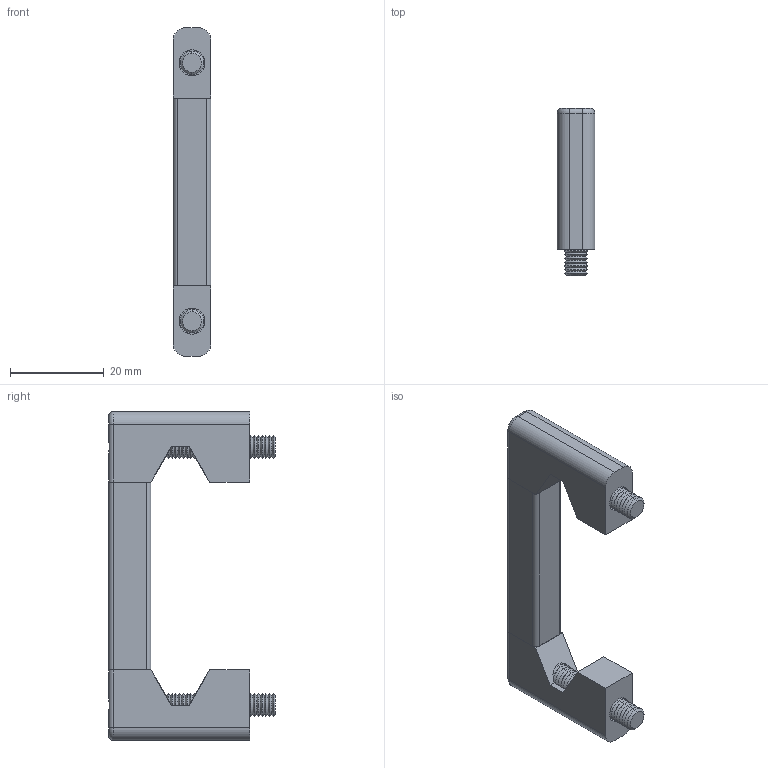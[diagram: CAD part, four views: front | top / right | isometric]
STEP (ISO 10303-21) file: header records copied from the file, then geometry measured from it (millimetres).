
FILE_DESCRIPTION (( 'STEP AP203' ), '1' );
FILE_NAME ('79350.W0255-1.step', '2018-04-28T14:53:40', ( '' ), ( '' ), 'SwSTEP 2.0', 'SolidWorks 2017', '' );
FILE_SCHEMA (( 'CONFIG_CONTROL_DESIGN' ));
Length unit declared in the file: millimetre
Products named in the file (4): SHCS_1_M5x45; Part2; Part3_79350.W0255-1; 79350.W0255-1
Assembly tree (5 placements, depth 2):
  79350.W0255-1
    Part3_79350.W0255-1
    Part2  x2
    SHCS_1_M5x45  x2
Bounding box: 8 x 35.5 x 70 mm (x, y, z)
Volume: 8535.2 mm3; surface area: 7435 mm2
Topology: 5 solids, 5 shells, 388 faces, 842 edges, 462 vertices
Faces by surface type: cone 264, plane 76, cylinder 44, torus 4
Entity records: 5931 total; most frequent: DIRECTION 1047, CARTESIAN_POINT 931, ORIENTED_EDGE 886, EDGE_CURVE 443, AXIS2_PLACEMENT_3D 399, VECTOR 249, LINE 249, VERTEX_POINT 247
